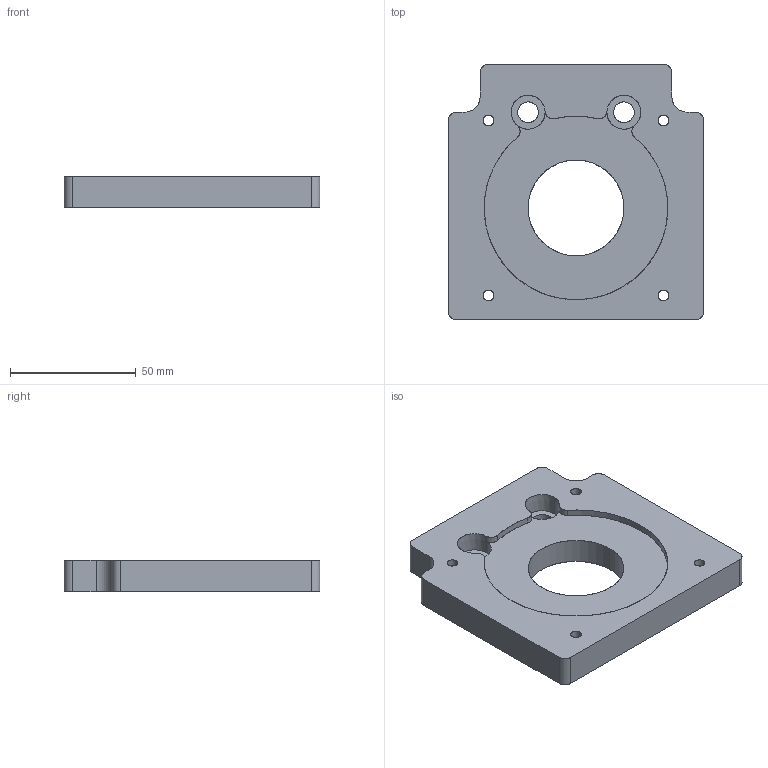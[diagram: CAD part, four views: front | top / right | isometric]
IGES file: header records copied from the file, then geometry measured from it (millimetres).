
Start section: SolidWorks IGES file using analytic representation for surfaces
Global section: file name: E:\Projects\Business\Libraries\SolidWorks\parts\Leadscrew Drive Systems\NEMA 34 Motor Mount (904 009).IGS; native system: SolidWorks 2014; preprocessor: SolidWorks 2014; author: nate; date: 170929.001201; units: inch
Bounding box: 101.6 x 101.6 x 12.7 mm (x, y, z)
Surface area: 25351.3 mm2 (no closed solid volume)
Topology: 0 solids, 0 shells, 47 faces, 1106 edges, 1106 vertices
Faces by surface type: revolution 34, bspline 13
